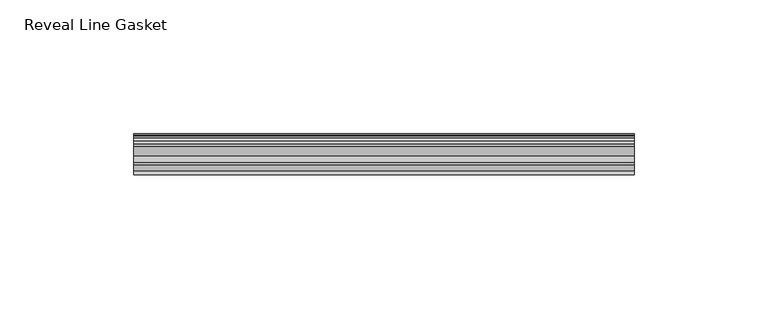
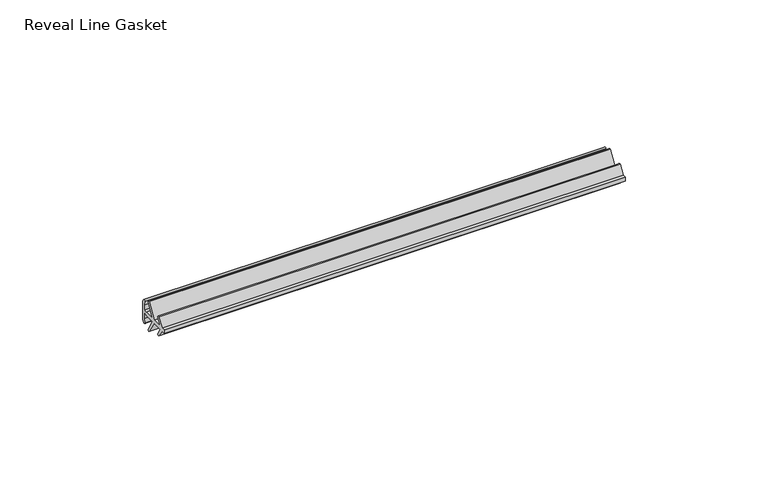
"""IFC4 building model written with IfcOpenShell, lengths in millimetres: proxy geometry, Accessories-Teknion-FHGR-AI_Healthcare-Reveal_Line_Gasket(Horizontal)-R2022 : Reveal Line Gasket."""

from ifc_helpers import new_model, si_unit, point, frame, frame_2d, origin, place, context, project, spatial, polyline, circle_curve, trimmed, segment, composite_curve, outline, extrude, source, transform, mapped, element, save


def reveal_line_gasket_989dcc83(model_context):
    return source(origin(), model_context, "Body", "SweptSolid", [
        extrude(outline(composite_curve([segment(polyline([(7.6326998, 1603.2), (7.6326998, 1597.2), (7.4091917, 1596.2445073), (6.8813059, 1595.3115316)]), True, "CONTINUOUS"), segment(trimmed(circle_curve(frame_2d((6.5243141, 1595.5135207)), 0.4101739), [point((6.8813059, 1595.3115316))], [point((6.1246704, 1595.6058653))], False, "CARTESIAN"), True, "CONTINUOUS"), segment(polyline([(6.1246704, 1595.6058653), (6.3626997, 1597.3020914), (6.3626997, 1599.3345473)]), True, "CONTINUOUS"), segment(trimmed(circle_curve(frame_2d((5.6959605, 1598.9180742)), 0.786124), [point((6.3626997, 1599.3345473))], [point((5.0926996, 1599.422125))], True, "CARTESIAN"), True, "CONTINUOUS"), segment(polyline([(5.0926996, 1599.422125), (0.7492996, 1599.422125), (3.7293824, 1594.2604705)]), True, "CONTINUOUS"), segment(trimmed(circle_curve(frame_2d((3.3132479, 1594.1950239)), 0.4212495), [point((3.7293824, 1594.2604705))], [point((3.0485022, 1593.8673642))], False, "CARTESIAN"), True, "CONTINUOUS"), segment(polyline([(3.0485022, 1593.8673642), (-0.5742594, 1599.422125), (-4.8262978, 1599.422125), (-3.1660374, 1596.5464703)]), True, "CONTINUOUS"), segment(trimmed(circle_curve(frame_2d((-3.5978728, 1596.4881145)), 0.4357605), [point((-3.1660374, 1596.5464703))], [point((-3.864328, 1596.1433119))], False, "CARTESIAN"), True, "CONTINUOUS"), segment(polyline([(-3.864328, 1596.1433119), (-6.1944059, 1599.422125), (-7.6326998, 1599.422125), (-7.6326998, 1600.977875), (-6.1944059, 1600.977875), (-3.864328, 1604.2566881)]), True, "CONTINUOUS"), segment(trimmed(circle_curve(frame_2d((-3.5978728, 1603.9118855)), 0.4357605), [point((-3.864328, 1604.2566881))], [point((-3.1660374, 1603.8535297))], False, "CARTESIAN"), True, "CONTINUOUS"), segment(polyline([(-3.1660374, 1603.8535297), (-4.8262978, 1600.977875), (-0.5742594, 1600.977875), (3.0485022, 1606.5326358)]), True, "CONTINUOUS"), segment(trimmed(circle_curve(frame_2d((3.3132479, 1606.2049761)), 0.4212495), [point((3.0485022, 1606.5326358))], [point((3.7293824, 1606.1395295))], False, "CARTESIAN"), True, "CONTINUOUS"), segment(polyline([(3.7293824, 1606.1395295), (0.7492996, 1600.977875), (5.0926996, 1600.977875)]), True, "CONTINUOUS"), segment(trimmed(circle_curve(frame_2d((5.6959605, 1601.4819258)), 0.786124), [point((5.0926996, 1600.977875))], [point((6.3626997, 1601.0654527))], True, "CARTESIAN"), True, "CONTINUOUS"), segment(polyline([(6.3626997, 1601.0654527), (6.3626997, 1603.0979086), (6.1246704, 1604.7941347)]), True, "CONTINUOUS"), segment(trimmed(circle_curve(frame_2d((6.5243141, 1604.8864793)), 0.4101739), [point((6.1246704, 1604.7941347))], [point((6.8813059, 1605.0884684))], False, "CARTESIAN"), True, "CONTINUOUS"), segment(polyline([(6.8813059, 1605.0884684), (7.4091917, 1604.1554927), (7.6326998, 1603.2)]), True, "CONTINUOUS")], self_intersect=False)), frame((-93.3704, 0.0, 0.0), z_axis=(1.0, 0.0, 0.0), x_axis=(0.0, 1.0, 0.0)), (0.0, 0.0, 1.0), 186.7408),
    ])


if __name__ == "__main__":
    model = new_model("IFC4")
    model_context = context("Model", 3, world=origin())
    ifc_project = project(units=[si_unit("LENGTHUNIT", "METRE", prefix="MILLI")], contexts=[model_context])
    site = spatial("IfcSite", under=ifc_project)
    building = spatial("IfcBuilding", under=site)
    placement = place(None, origin())
    reveal_line_gasket_shape = reveal_line_gasket_989dcc83(model_context)
    element("IfcBuildingElementProxy", 1, Name="Accessories-Teknion-FHGR-AI_Healthcare-Reveal_Line_Gasket(Horizontal)-R2022 : Reveal Line Gasket", ObjectType="Accessories-Teknion-FHGR-AI_Healthcare-Reveal_Line_Gasket(Horizontal)-R2022 : Reveal Line Gasket", at=placement, inside=building, context=model_context, shape_type="MappedRepresentation", body=[
        mapped(reveal_line_gasket_shape, transform((0.0, 0.0, 0.0), x_axis=(1.0, 0.0, 0.0), y_axis=(0.0, 1.0, 0.0), z_axis=(0.0, 0.0, 1.0))),
    ])
    save(model, "model.ifc")
